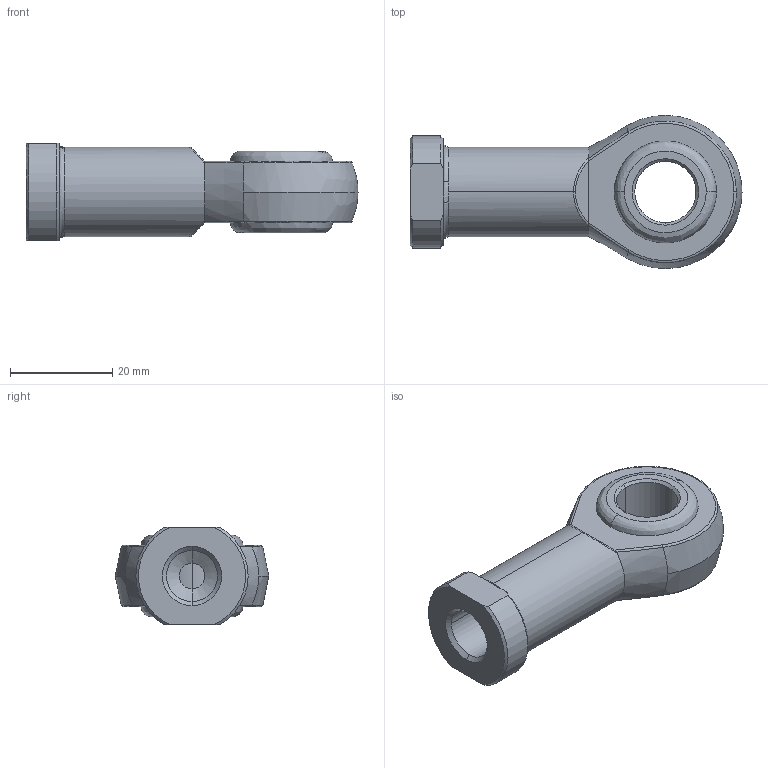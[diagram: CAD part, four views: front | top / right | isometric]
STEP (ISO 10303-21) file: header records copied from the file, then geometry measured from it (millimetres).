
FILE_DESCRIPTION (( 'STEP AP214' ), '1' );
FILE_NAME ('40_Mafsal_Baglantý.STEP', '2020-12-04T18:35:22', ( '' ), ( '' ), 'SwSTEP 2.0', 'SolidWorks 2021', '' );
FILE_SCHEMA (( 'AUTOMOTIVE_DESIGN' ));
Length unit declared in the file: millimetre
Products named in the file (1): 40_Mafsal_Baglantý
Bounding box: 65 x 30 x 19 mm (x, y, z)
Volume: 14223.4 mm3; surface area: 6242 mm2
Topology: 1 solids, 1 shells, 59 faces, 147 edges, 91 vertices
Faces by surface type: bspline 21, cone 15, cylinder 12, plane 11
Entity records: 2804 total; most frequent: CARTESIAN_POINT 1575, ORIENTED_EDGE 290, DIRECTION 202, EDGE_CURVE 145, VERTEX_POINT 91, AXIS2_PLACEMENT_3D 85, EDGE_LOOP 64, ADVANCED_FACE 59
